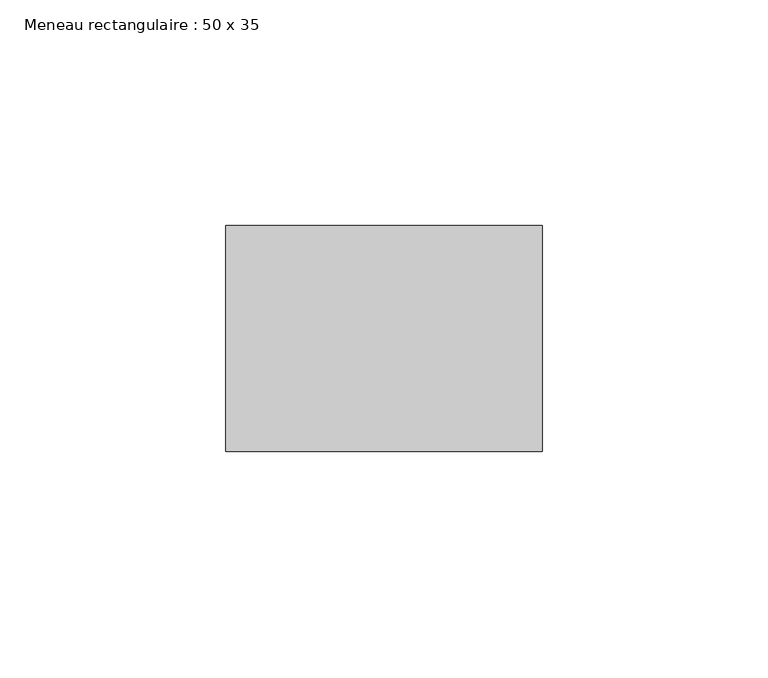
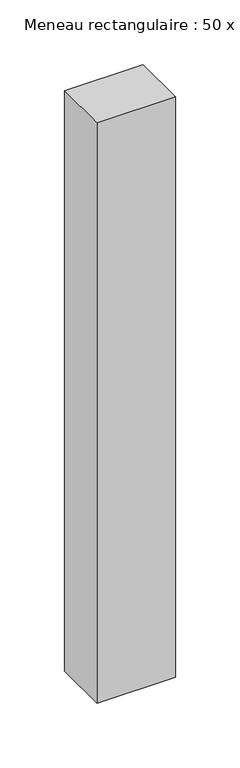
"""IFC4 building model written with IfcOpenShell, lengths in millimetres: member geometry, Meneau rectangulaire : 50 x 35."""

from ifc_helpers import new_model, si_unit, frame, origin, place, context, project, spatial, polyline, outline, extrude, source, transform, mapped, element, save


def meneau_rectangulaire_50_x_35_e027e91a(model_context):
    return source(origin(), model_context, "Body", "SweptSolid", [
        extrude(outline(polyline([(0.0, 0.0), (0.0, -50.0), (-70.0, -50.0), (-70.0, 0.0), (0.0, 0.0)])), frame((0.0, 0.0, -547.0), z_axis=(0.0, 0.0, 1.0), x_axis=(1.0, 0.0, 0.0)), (0.0, 0.0, 1.0), 547.0),
    ])


if __name__ == "__main__":
    model = new_model("IFC4")
    model_context = context("Model", 3, world=origin())
    ifc_project = project(units=[si_unit("LENGTHUNIT", "METRE", prefix="MILLI")], contexts=[model_context])
    site = spatial("IfcSite", under=ifc_project)
    building = spatial("IfcBuilding", under=site)
    placement = place(None, origin())
    meneau_rectangulaire_50_x_35_shape = meneau_rectangulaire_50_x_35_e027e91a(model_context)
    element("IfcMember", 1, ObjectType="Meneau rectangulaire : 50 x 35", at=placement, inside=building, context=model_context, shape_type="MappedRepresentation", body=[
        mapped(meneau_rectangulaire_50_x_35_shape, transform((0.0, 0.0, 0.0), x_axis=(1.0, 0.0, 0.0), y_axis=(0.0, 1.0, 0.0), z_axis=(0.0, 0.0, 1.0))),
    ])
    save(model, "model.ifc")
